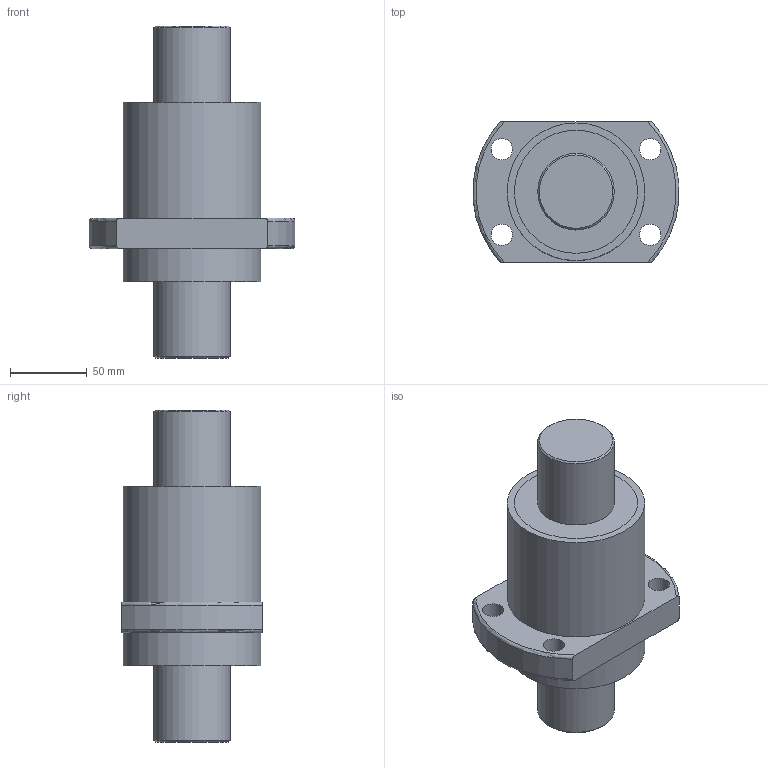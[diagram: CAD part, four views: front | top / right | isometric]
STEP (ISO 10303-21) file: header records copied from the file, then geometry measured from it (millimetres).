
FILE_DESCRIPTION(/* description */ (''),/* implementation_level */ '2;1');
FILE_NAME(/* name */ 'SFY5050.stp',/* time_stamp */ '2013-11-01T09:57:57+08:00',/* author */ (''),/* organization */ (''),/* preprocessor_version */ 'ST-DEVELOPER v11',/* originating_system */ 'SIEMENS UGS NX 6.0',/* authorisation */ '');
FILE_SCHEMA (('CONFIG_CONTROL_DESIGN'));
Length unit declared in the file: millimetre
Products named in the file (1): fann640Fk5oe
Bounding box: 134.53 x 92 x 217 mm (x, y, z)
Volume: 1028161.8 mm3; surface area: 134535.2 mm2
Topology: 4 solids, 4 shells, 52 faces, 101 edges, 69 vertices
Faces by surface type: cylinder 24, plane 22, torus 4, cone 2
Full cylindrical faces by diameter (mm): 14 x4, 50 x4, 79 x4, 80.5 x4, 82 x4, 90 x2
Entity records: 1364 total; most frequent: CARTESIAN_POINT 278, DIRECTION 224, ORIENTED_EDGE 140, AXIS2_PLACEMENT_3D 108, EDGE_LOOP 102, FACE_BOUND 92, EDGE_CURVE 70, VERTEX_POINT 62
